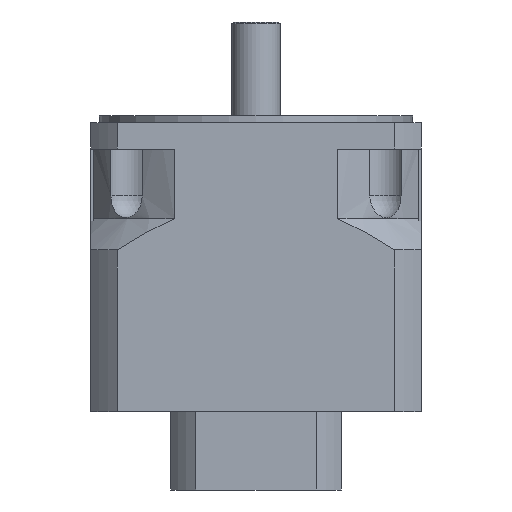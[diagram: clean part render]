
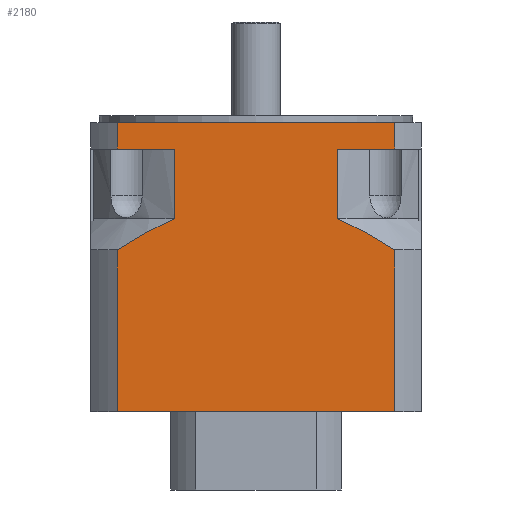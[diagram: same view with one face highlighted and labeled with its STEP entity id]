
A CAD part, front view. The second image highlights one B-rep face of the part: STEP entity #2180.
In plain terms, the highlighted planar face has unit normal (0, -1, 0).
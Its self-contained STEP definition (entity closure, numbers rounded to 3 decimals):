
#860=CARTESIAN_POINT('',(-79.693,-95.,211.0));
#861=VERTEX_POINT('',#860);
#862=CARTESIAN_POINT('',(79.693,-95.,211.0));
#863=VERTEX_POINT('',#862);
#864=CARTESIAN_POINT('',(-79.693,-95.0,211.0));
#865=DIRECTION('',(1.0,0.0,0.0));
#866=VECTOR('',#865,159.386);
#867=LINE('',#864,#866);
#868=EDGE_CURVE('',#861,#863,#867,.T.);
#1015=CARTESIAN_POINT('',(79.693,-95.,196.0));
#1016=VERTEX_POINT('',#1015);
#1017=CARTESIAN_POINT('',(79.693,-95.,211.0));
#1018=DIRECTION('',(0.0,0.0,-1.0));
#1019=VECTOR('',#1018,15.0);
#1020=LINE('',#1017,#1019);
#1021=EDGE_CURVE('',#863,#1016,#1020,.T.);
#1047=CARTESIAN_POINT('',(-79.693,-95.0,196.0));
#1048=VERTEX_POINT('',#1047);
#1049=CARTESIAN_POINT('',(-79.693,-95.0,196.0));
#1050=DIRECTION('',(0.0,0.0,1.0));
#1051=VECTOR('',#1050,15.0);
#1052=LINE('',#1049,#1051);
#1053=EDGE_CURVE('',#1048,#861,#1052,.T.);
#1217=CARTESIAN_POINT('',(47.021,-95.0,196.0));
#1218=VERTEX_POINT('',#1217);
#1219=CARTESIAN_POINT('',(79.693,-95.,196.0));
#1220=DIRECTION('',(-1.0,0.0,0.0));
#1221=VECTOR('',#1220,32.672);
#1222=LINE('',#1219,#1221);
#1223=EDGE_CURVE('',#1016,#1218,#1222,.T.);
#1286=CARTESIAN_POINT('',(-47.021,-95.0,196.0));
#1287=VERTEX_POINT('',#1286);
#1288=CARTESIAN_POINT('',(-47.021,-95.0,196.0));
#1289=DIRECTION('',(-1.0,0.0,0.0));
#1290=VECTOR('',#1289,32.672);
#1291=LINE('',#1288,#1290);
#1292=EDGE_CURVE('',#1287,#1048,#1291,.T.);
#1738=CARTESIAN_POINT('',(47.021,-95.0,156.0));
#1739=VERTEX_POINT('',#1738);
#1747=CARTESIAN_POINT('',(79.693,-95.,138.0));
#1748=VERTEX_POINT('',#1747);
#1749=CARTESIAN_POINT('',(79.693,-95.,138.0));
#1750=CARTESIAN_POINT('',(62.079,-95.0,149.321));
#1751=CARTESIAN_POINT('',(47.021,-95.0,156.0));
#1759=(BOUNDED_CURVE()B_SPLINE_CURVE(2,(#1749,#1750,#1751),.UNSPECIFIED.,.F.,.U.)B_SPLINE_CURVE_WITH_KNOTS((3,3),(0.324,4.1),.UNSPECIFIED.)CURVE()GEOMETRIC_REPRESENTATION_ITEM()RATIONAL_B_SPLINE_CURVE((1.002,1.011,1.0))REPRESENTATION_ITEM(''));
#1760=EDGE_CURVE('',#1748,#1739,#1759,.T.);
#1921=CARTESIAN_POINT('',(47.021,-95.0,156.0));
#1922=DIRECTION('',(0.0,0.0,1.0));
#1923=VECTOR('',#1922,40.0);
#1924=LINE('',#1921,#1923);
#1925=EDGE_CURVE('',#1739,#1218,#1924,.T.);
#1981=CARTESIAN_POINT('',(-47.021,-95.0,156.0));
#1982=VERTEX_POINT('',#1981);
#1990=CARTESIAN_POINT('',(-47.021,-95.0,196.0));
#1991=DIRECTION('',(0.0,0.0,-1.0));
#1992=VECTOR('',#1991,40.0);
#1993=LINE('',#1990,#1992);
#1994=EDGE_CURVE('',#1287,#1982,#1993,.T.);
#2052=CARTESIAN_POINT('',(-79.693,-95.,138.0));
#2053=VERTEX_POINT('',#2052);
#2061=CARTESIAN_POINT('',(-47.021,-95.,156.0));
#2062=CARTESIAN_POINT('',(-62.079,-95.,149.321));
#2063=CARTESIAN_POINT('',(-79.693,-95.,138.0));
#2071=(BOUNDED_CURVE()B_SPLINE_CURVE(2,(#2061,#2062,#2063),.UNSPECIFIED.,.F.,.U.)B_SPLINE_CURVE_WITH_KNOTS((3,3),(0.0,3.776),.UNSPECIFIED.)CURVE()GEOMETRIC_REPRESENTATION_ITEM()RATIONAL_B_SPLINE_CURVE((1.0,1.011,1.002))REPRESENTATION_ITEM(''));
#2072=EDGE_CURVE('',#1982,#2053,#2071,.T.);
#2142=CARTESIAN_POINT('',(95.,-95.,45.0));
#2143=DIRECTION('',(0.0,-1.0,0.0));
#2144=DIRECTION('',(0.0,0.0,-1.0));
#2145=AXIS2_PLACEMENT_3D('',#2142,#2143,#2144);
#2146=PLANE('',#2145);
#2147=ORIENTED_EDGE('',*,*,#1994,.T.);
#2148=ORIENTED_EDGE('',*,*,#2072,.T.);
#2149=CARTESIAN_POINT('',(-79.693,-95.,45.0));
#2150=VERTEX_POINT('',#2149);
#2151=CARTESIAN_POINT('',(-79.693,-95.,45.0));
#2152=DIRECTION('',(0.0,0.0,1.0));
#2153=VECTOR('',#2152,93.0);
#2154=LINE('',#2151,#2153);
#2155=EDGE_CURVE('',#2150,#2053,#2154,.T.);
#2156=ORIENTED_EDGE('',*,*,#2155,.F.);
#2157=CARTESIAN_POINT('',(79.693,-95.,45.0));
#2158=VERTEX_POINT('',#2157);
#2159=CARTESIAN_POINT('',(79.693,-95.0,45.0));
#2160=DIRECTION('',(-1.0,0.0,0.0));
#2161=VECTOR('',#2160,159.386);
#2162=LINE('',#2159,#2161);
#2163=EDGE_CURVE('',#2158,#2150,#2162,.T.);
#2164=ORIENTED_EDGE('',*,*,#2163,.F.);
#2165=CARTESIAN_POINT('',(79.693,-95.,138.0));
#2166=DIRECTION('',(0.0,0.0,-1.0));
#2167=VECTOR('',#2166,93.0);
#2168=LINE('',#2165,#2167);
#2169=EDGE_CURVE('',#1748,#2158,#2168,.T.);
#2170=ORIENTED_EDGE('',*,*,#2169,.F.);
#2171=ORIENTED_EDGE('',*,*,#1760,.T.);
#2172=ORIENTED_EDGE('',*,*,#1925,.T.);
#2173=ORIENTED_EDGE('',*,*,#1223,.F.);
#2174=ORIENTED_EDGE('',*,*,#1021,.F.);
#2175=ORIENTED_EDGE('',*,*,#868,.F.);
#2176=ORIENTED_EDGE('',*,*,#1053,.F.);
#2177=ORIENTED_EDGE('',*,*,#1292,.F.);
#2178=EDGE_LOOP('',(#2147,#2148,#2156,#2164,#2170,#2171,#2172,#2173,#2174,#2175,#2176,#2177));
#2179=FACE_OUTER_BOUND('',#2178,.T.);
#2180=ADVANCED_FACE('',(#2179),#2146,.T.);
